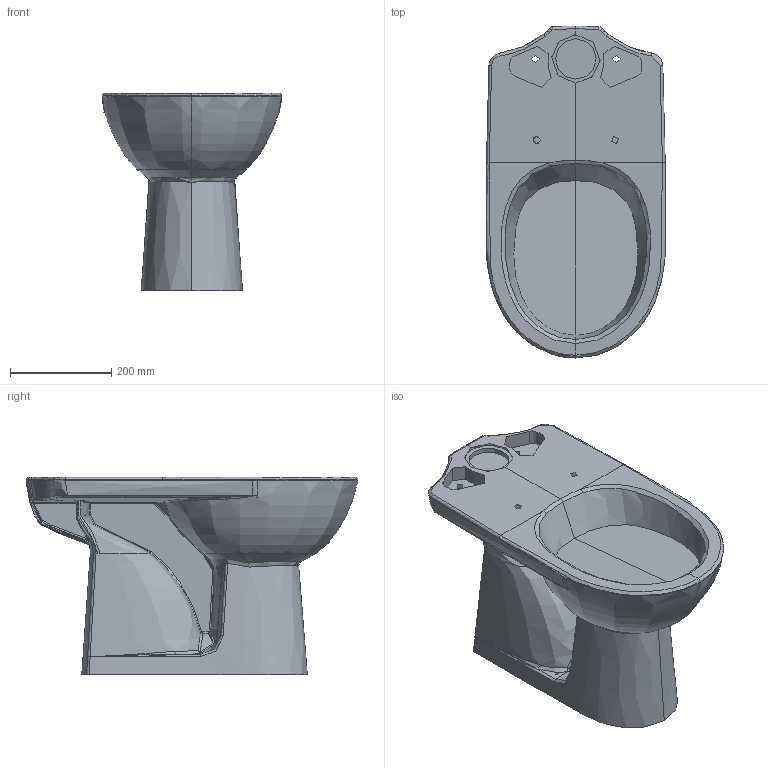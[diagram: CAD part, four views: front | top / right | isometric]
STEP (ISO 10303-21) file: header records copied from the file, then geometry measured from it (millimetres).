
FILE_DESCRIPTION(/* description */ (''),/* implementation_level */ '2;1');
FILE_NAME(/* name */ 'C:\Planerdaten\Export PLA\500.281.01.1\stp\500281.stp',/* time_stamp */ '2020-05-27T08:27:03+02:00',/* author */ ('JANAN'),/* organization */ (''),/* preprocessor_version */ 'ST-DEVELOPER v16.13',/* originating_system */ 'Autodesk Inventor 2018',/* authorisation */ '');
FILE_SCHEMA (('AUTOMOTIVE_DESIGN { 1 0 10303 214 3 1 1 }'));
Products named in the file (1): SWC-T f AP-SPK-a Ge+Snv T67 Abg-v
Bounding box: 353.92 x 655 x 390 mm (x, y, z)
Volume: 27743094.4 mm3; surface area: 1060827.6 mm2
Topology: 1 solids, 1 shells, 340 faces, 786 edges, 452 vertices
Faces by surface type: bspline 264, cylinder 37, plane 27, sphere 12
Full cylindrical faces by diameter (mm): 15 x4, 80 x1, 90 x1, 95.528 x1
Entity records: 77497 total; most frequent: CARTESIAN_POINT 71141, ORIENTED_EDGE 1548, DIRECTION 787, EDGE_CURVE 774, VERTEX_POINT 448, B_SPLINE_CURVE_WITH_KNOTS 370, EDGE_LOOP 356, STYLED_ITEM 341
